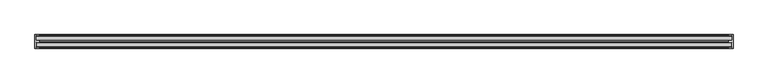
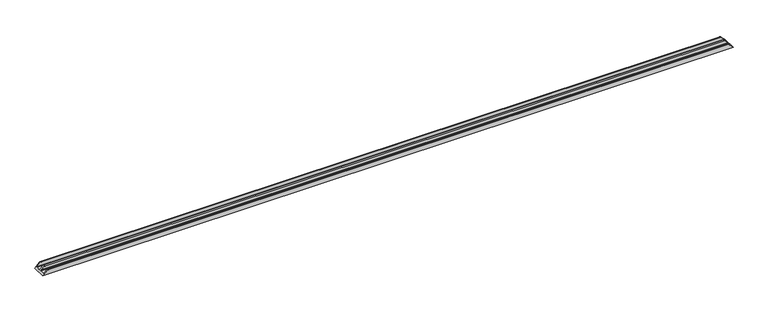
"""IFC4 building model written with IfcOpenShell, lengths in millimetres: proxy geometry, Weiku - Montante - Caixilho duplo 02.3.02.409 : Weiku - Montante - Caixilho duplo 02.3.02.409."""

from ifc_helpers import new_model, si_unit, frame, origin, place, context, project, spatial, ellipse_curve, source, transform, mapped, element, save
from ifc_brep_helpers import plane_surface, cylinder_surface, advanced_brep


def generic_models_8bebd72f(model_context):
    return source(origin(), model_context, "Body", "AdvancedBrep", [
        advanced_brep(
        [(-3977.8, -9.8, 18.2), (3977.8, -9.8, 18.2), (3940.1, -9.8, 55.9), (-3940.1, -9.8, 55.9), (-3980.3000079, -63.85, 15.6999921), (3980.3000079, -63.85, 15.6999921), (3980.3000079, -15.05, 15.6999921), (-3980.3000079, -15.05, 15.6999921), (-3940.1000055, -69.1, 55.8999945), (3940.1000055, -69.1, 55.8999945), (3972.1700642, -69.1, 23.8299358), (-3972.1700642, -69.1, 23.8299358), (-3939.6000055, -86.65, 56.3999945), (3939.6000055, -86.65, 56.3999945), (3939.6000055, -69.6, 56.3999945), (-3939.6000055, -69.6, 56.3999945), (-3972.2236827, -87.15, 23.7763173), (3972.2236827, -87.15, 23.7763173), (3940.1000055, -87.15, 55.8999945), (-3940.1000055, -87.15, 55.8999945), (-3996.0, -156.2000166, 0.0), (-3996.0, 0.0, 0.0), (3996.0, 0.0, 0.0), (3996.0, -156.2000166, 0.0), (-3940.1, 0.0, 55.9), (3940.1, 0.0, 55.9), (-3939.6, -9.3, 56.4), (3939.6, -9.3, 56.4), (3939.6, -0.5, 56.4), (-3939.6, -0.5, 56.4), (-3940.1, -156.2000166, 55.9), (-3939.6, -155.7000166, 56.4), (-3939.6, -146.9000166, 56.4), (-3940.1, -146.4000166, 55.9), (-3977.8, -146.4000166, 18.2), (-3977.8, -141.1500166, 18.2), (-3980.3000079, -141.1500166, 15.6999921), (-3980.3000079, -92.3500166, 15.6999921), (-3977.8000178, -92.3500166, 18.1999822), (-3977.8, -63.85, 18.2), (-3977.8, -15.05, 18.2), (3977.8, -15.05, 18.2), (3977.8, -63.85, 18.2), (3977.8000178, -92.3500166, 18.1999822), (3980.3000079, -92.3500166, 15.6999921), (3980.3000079, -141.1500166, 15.6999921), (3977.8, -141.1500166, 18.2), (3977.8, -146.4000166, 18.2), (3940.1, -146.4000166, 55.9), (3939.6, -146.9000166, 56.4), (3939.6, -155.7000166, 56.4), (3940.1, -156.2000166, 55.9)],
        [
            (0, 1),
            (1, 2),
            (2, 3),
            (3, 0),
            (4, 5),
            (5, 6),
            (6, 7),
            (7, 4),
            (8, 9),
            (9, 10),
            (10, 11),
            (11, 8),
            (12, 13),
            (13, 14),
            (14, 15),
            (15, 12),
            (16, 17),
            (17, 18),
            (18, 19),
            (19, 16),
            (20, 21),
            (21, 22),
            (22, 23),
            (23, 20),
            (21, 24),
            (24, 25),
            (25, 22),
            (26, 27),
            (27, 28),
            (28, 29),
            (29, 26),
            (3, 26, ellipse_curve(frame((-3940.1, -9.3, 55.9), z_axis=(-0.7071067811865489, 0.0, 0.7071067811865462), x_axis=(-0.707106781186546, 0.0, -0.7071067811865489)), 0.7071068, 0.5)),
            (29, 24, ellipse_curve(frame((-3940.1, -0.5, 55.9), z_axis=(-0.7071067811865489, 0.0, 0.7071067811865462), x_axis=(-0.707106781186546, 0.0, -0.7071067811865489)), 0.7071068, 0.5)),
            (20, 30),
            (30, 31, ellipse_curve(frame((-3940.1, -155.7000166, 55.9), z_axis=(-0.7071067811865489, 0.0, 0.7071067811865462), x_axis=(-0.707106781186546, 0.0, -0.7071067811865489)), 0.7071068, 0.5)),
            (31, 32),
            (32, 33, ellipse_curve(frame((-3940.1, -146.9000166, 55.9), z_axis=(-0.7071067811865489, 0.0, 0.7071067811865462), x_axis=(-0.707106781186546, 0.0, -0.7071067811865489)), 0.7071068, 0.5)),
            (33, 34),
            (34, 35),
            (35, 36),
            (36, 37),
            (37, 38),
            (38, 16),
            (19, 12, ellipse_curve(frame((-3940.1000055, -86.65, 55.8999945), z_axis=(-0.7071067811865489, 0.0, 0.7071067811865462), x_axis=(-0.707106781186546, 0.0, -0.7071067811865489)), 0.7071068, 0.5)),
            (15, 8, ellipse_curve(frame((-3940.1000055, -69.6, 55.8999945), z_axis=(-0.7071067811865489, 0.0, 0.7071067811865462), x_axis=(-0.707106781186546, 0.0, -0.7071067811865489)), 0.7071068, 0.5)),
            (11, 39),
            (39, 4),
            (7, 40),
            (40, 0),
            (1, 41),
            (41, 6),
            (5, 42),
            (42, 10),
            (9, 14, ellipse_curve(frame((3940.1000055, -69.6, 55.8999945), z_axis=(0.7071067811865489, 0.0, 0.7071067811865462), x_axis=(-0.707106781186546, 0.0, 0.7071067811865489)), 0.7071068, 0.5)),
            (13, 18, ellipse_curve(frame((3940.1000055, -86.65, 55.8999945), z_axis=(0.7071067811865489, 0.0, 0.7071067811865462), x_axis=(-0.707106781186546, 0.0, 0.7071067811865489)), 0.7071068, 0.5)),
            (17, 43),
            (43, 44),
            (44, 45),
            (45, 46),
            (46, 47),
            (47, 48),
            (48, 49, ellipse_curve(frame((3940.1, -146.9000166, 55.9), z_axis=(0.7071067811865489, 0.0, 0.7071067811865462), x_axis=(-0.707106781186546, 0.0, 0.7071067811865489)), 0.7071068, 0.5)),
            (49, 50),
            (50, 51, ellipse_curve(frame((3940.1, -155.7000166, 55.9), z_axis=(0.7071067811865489, 0.0, 0.7071067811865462), x_axis=(-0.707106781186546, 0.0, 0.7071067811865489)), 0.7071068, 0.5)),
            (51, 23),
            (25, 28, ellipse_curve(frame((3940.1, -0.5, 55.9), z_axis=(0.7071067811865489, 0.0, 0.7071067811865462), x_axis=(-0.707106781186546, 0.0, 0.7071067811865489)), 0.7071068, 0.5)),
            (27, 2, ellipse_curve(frame((3940.1, -9.3, 55.9), z_axis=(0.7071067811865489, 0.0, 0.7071067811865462), x_axis=(-0.707106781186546, 0.0, 0.7071067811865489)), 0.7071068, 0.5)),
            (40, 41),
            (39, 42),
            (38, 43),
            (37, 44),
            (36, 45),
            (35, 46),
            (34, 47),
            (33, 48),
            (31, 50),
            (49, 32),
            (30, 51),
        ],
        [
            plane_surface(frame((-3996.0, -9.8, 55.9), z_axis=(0.0, -1.0, 0.0), x_axis=(1.0, 0.0, 0.0))),
            plane_surface(frame((-3996.0, -15.05, 15.6999921), z_axis=(0.0, 0.0, 1.0), x_axis=(1.0, 0.0, 0.0))),
            plane_surface(frame((-3996.0, -69.1, 23.8299358), z_axis=(0.0, 1.0, 0.0), x_axis=(1.0, 0.0, 0.0))),
            plane_surface(frame((-3996.0, -69.6, 56.3999945), z_axis=(0.0, 0.0, 1.0), x_axis=(1.0, 0.0, 0.0))),
            plane_surface(frame((-3996.0, -87.15, 55.8999945), z_axis=(0.0, -1.0, 0.0), x_axis=(1.0, 0.0, 0.0))),
            plane_surface(frame((-3996.0, -156.2000166, 0.0), z_axis=(0.0, 0.0, -1.0), x_axis=(1.0, 0.0, 0.0))),
            plane_surface(frame((-3996.0, 0.0, 0.0), z_axis=(0.0, 1.0, 0.0), x_axis=(1.0, 0.0, 0.0))),
            plane_surface(frame((-3996.0, -0.5, 56.4), z_axis=(0.0, 0.0, 1.0), x_axis=(1.0, 0.0, 0.0))),
            plane_surface(frame((-3996.0, 0.0, 0.0), z_axis=(-0.7071067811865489, 0.0, 0.7071067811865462), x_axis=(0.0, -1.0, 0.0))),
            plane_surface(frame((3936.0, 0.0, 60.0), z_axis=(0.7071067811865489, 0.0, 0.7071067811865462), x_axis=(0.0, -1.0, 0.0))),
            plane_surface(frame((-3996.0, -9.8, 18.2), z_axis=(0.0, 0.0, 1.0), x_axis=(1.0, 0.0, 0.0))),
            plane_surface(frame((-3996.0, -15.05, 18.2), z_axis=(0.0, -1.0, 0.0), x_axis=(1.0, 0.0, 0.0))),
            plane_surface(frame((-3996.0, -63.85, 15.6999921), z_axis=(0.0, 1.0, 0.0), x_axis=(1.0, 0.0, 0.0))),
            plane_surface(frame((-3996.0, -63.85, 18.2), z_axis=(0.0, 0.7313537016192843, 0.6819983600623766), x_axis=(1.0, 0.0, 0.0))),
            cylinder_surface(frame((-3996.0, -86.65, 55.8999945), z_axis=(-1.0, 0.0, 0.0), x_axis=(0.0, -1.0, 0.0)), 0.5),
            cylinder_surface(frame((-3996.0, -0.5, 55.9), z_axis=(-1.0, 0.0, 0.0), x_axis=(0.0, -1.0, 0.0)), 0.5),
            plane_surface(frame((-3996.0, -87.15, 23.7763173), z_axis=(0.0, -0.7313537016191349, 0.6819983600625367), x_axis=(1.0, 0.0, 0.0))),
            plane_surface(frame((-3996.0, -92.3500166, 18.1999822), z_axis=(0.0, -1.0, 0.0), x_axis=(1.0, 0.0, 0.0))),
            plane_surface(frame((-3996.0, -92.3500166, 15.6999921), z_axis=(0.0, 0.0, 1.0), x_axis=(1.0, 0.0, 0.0))),
            plane_surface(frame((-3996.0, -141.1500166, 15.6999921), z_axis=(0.0, 1.0, 0.0), x_axis=(1.0, 0.0, 0.0))),
            plane_surface(frame((-3996.0, -141.1500166, 18.2), z_axis=(0.0, 0.0, 1.0), x_axis=(1.0, 0.0, 0.0))),
            plane_surface(frame((-3996.0, -146.4000166, 18.2), z_axis=(0.0, 1.0, 0.0), x_axis=(1.0, 0.0, 0.0))),
            plane_surface(frame((-3996.0, -146.9000166, 56.4), z_axis=(0.0, 0.0, 1.0), x_axis=(1.0, 0.0, 0.0))),
            cylinder_surface(frame((-3996.0, -155.7000166, 55.9), z_axis=(-1.0, 0.0, 0.0), x_axis=(0.0, 1.0, 0.0)), 0.5),
            plane_surface(frame((-3996.0, -156.2000166, 55.9), z_axis=(0.0, -1.0, 0.0), x_axis=(1.0, 0.0, 0.0))),
            cylinder_surface(frame((-3996.0, -9.3, 55.9), z_axis=(-1.0, 0.0, 0.0), x_axis=(0.0, -1.0, 0.0)), 0.5),
            cylinder_surface(frame((-3996.0, -69.6, 55.8999945), z_axis=(-1.0, 0.0, 0.0), x_axis=(0.0, -1.0, 0.0)), 0.5),
            cylinder_surface(frame((-3996.0, -146.9000166, 55.9), z_axis=(-1.0, 0.0, 0.0), x_axis=(0.0, -1.0, 0.0)), 0.5),
        ],
        [
            (0, [[1, 2, 3, 4]]),
            (1, [[5, 6, 7, 8]]),
            (2, [[9, 10, 11, 12]]),
            (3, [[13, 14, 15, 16]]),
            (4, [[17, 18, 19, 20]]),
            (5, [[21, 22, 23, 24]]),
            (6, [[25, 26, 27, -22]]),
            (7, [[28, 29, 30, 31]]),
            (8, [[32, -31, 33, -25, -21, 34, 35, 36, 37, 38, 39, 40, 41, 42, 43, -20, 44, -16, 45, -12, 46, 47, -8, 48, 49, -4]]),
            (9, [[50, 51, -6, 52, 53, -10, 54, -14, 55, -18, 56, 57, 58, 59, 60, 61, 62, 63, 64, 65, -23, -27, 66, -29, 67, -2]]),
            (10, [[68, -50, -1, -49]]),
            (11, [[-7, -51, -68, -48]]),
            (12, [[69, -52, -5, -47]]),
            (13, [[-11, -53, -69, -46]]),
            (14, [[-19, -55, -13, -44]]),
            (15, [[-30, -66, -26, -33]]),
            (16, [[70, -56, -17, -43]]),
            (17, [[71, -57, -70, -42]]),
            (18, [[72, -58, -71, -41]]),
            (19, [[73, -59, -72, -40]]),
            (20, [[74, -60, -73, -39]]),
            (21, [[75, -61, -74, -38]]),
            (22, [[76, -63, 77, -36]]),
            (23, [[78, -64, -76, -35]]),
            (24, [[-65, -78, -34, -24]]),
            (25, [[-3, -67, -28, -32]]),
            (26, [[-15, -54, -9, -45]]),
            (27, [[-77, -62, -75, -37]]),
        ],
    ),
    ])


if __name__ == "__main__":
    model = new_model("IFC4")
    model_context = context("Model", 3, world=origin())
    ifc_project = project(units=[si_unit("LENGTHUNIT", "METRE", prefix="MILLI")], contexts=[model_context])
    site = spatial("IfcSite", under=ifc_project)
    building = spatial("IfcBuilding", under=site)
    placement = place(None, origin())
    generic_models_shape = generic_models_8bebd72f(model_context)
    element("IfcBuildingElementProxy", 1, Name="Weiku - Montante - Caixilho duplo 02.3.02.409 : Weiku - Montante - Caixilho duplo 02.3.02.409", ObjectType="Weiku - Montante - Caixilho duplo 02.3.02.409 : Weiku - Montante - Caixilho duplo 02.3.02.409", at=placement, inside=building, context=model_context, shape_type="MappedRepresentation", body=[
        mapped(generic_models_shape, transform((0.0, 0.0, 0.0), x_axis=(1.0, 0.0, 0.0), y_axis=(0.0, 1.0, 0.0), z_axis=(0.0, 0.0, 1.0))),
    ])
    save(model, "model.ifc")
